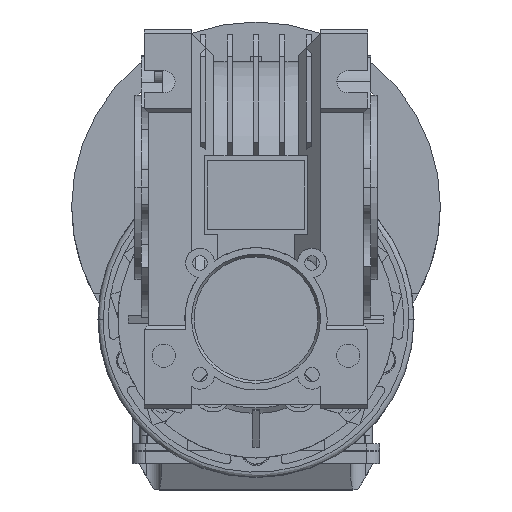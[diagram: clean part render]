
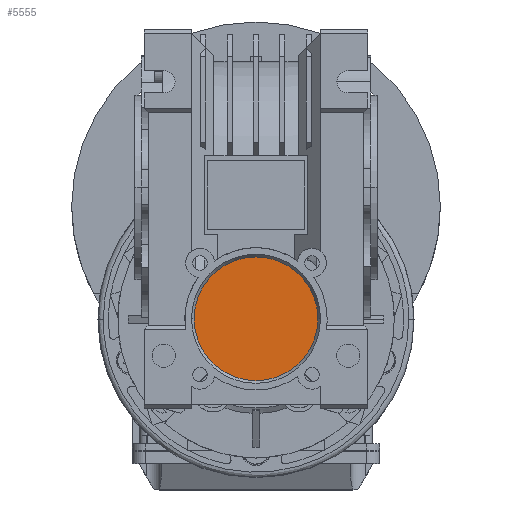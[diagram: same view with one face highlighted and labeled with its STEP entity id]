
A CAD part, top view. The second image highlights one B-rep face of the part: STEP entity #5555.
In plain terms, the highlighted planar face has unit normal (0, 0, 1) as drawn and (-1, 0, 0) by its records, which use the part's own axes.
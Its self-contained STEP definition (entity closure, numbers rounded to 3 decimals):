
#1293 = FACE_OUTER_BOUND ( 'NONE', #101837, .T. ) ;
#5555 = ADVANCED_FACE ( 'NONE', ( #1293 ), #31575, .F. ) ;
#14258 = ORIENTED_EDGE ( 'NONE', *, *, #35243, .T. ) ;
#14259 = ORIENTED_EDGE ( 'NONE', *, *, #35377, .T. ) ;
#31575 = PLANE ( 'NONE',  #59192 ) ;
#31581 = CARTESIAN_POINT ( 'NONE',  ( -58.5, 38.25, 0. ) ) ;
#31582 = DIRECTION ( 'NONE',  ( 1., 0., 0. ) ) ;
#31583 = DIRECTION ( 'NONE',  ( 0., 0., -1. ) ) ;
#35243 = EDGE_CURVE ( 'NONE', #97478, #97481, #90248, .T. ) ;
#35377 = EDGE_CURVE ( 'NONE', #97481, #97478, #90579, .T. ) ;
#51590 = CARTESIAN_POINT ( 'NONE',  ( -58.5, 50., -23.5 ) ) ;
#51595 = CARTESIAN_POINT ( 'NONE',  ( -58.5, 50., 23.5 ) ) ;
#53989 = AXIS2_PLACEMENT_3D ( 'NONE', #93903, #93905, #93907 ) ;
#54047 = AXIS2_PLACEMENT_3D ( 'NONE', #94700, #94702, #94704 ) ;
#59192 = AXIS2_PLACEMENT_3D ( 'NONE', #31581, #31582, #31583 ) ;
#90248 = CIRCLE ( 'NONE', #53989, 23.5 ) ;
#90579 = CIRCLE ( 'NONE', #54047, 23.5 ) ;
#93903 = CARTESIAN_POINT ( 'NONE',  ( -58.5, 50., 0. ) ) ;
#93905 = DIRECTION ( 'NONE',  ( -1., 0., 0. ) ) ;
#93907 = DIRECTION ( 'NONE',  ( 0., 0., 1. ) ) ;
#94700 = CARTESIAN_POINT ( 'NONE',  ( -58.5, 50., 0. ) ) ;
#94702 = DIRECTION ( 'NONE',  ( -1., 0., 0. ) ) ;
#94704 = DIRECTION ( 'NONE',  ( 0., 0., 1. ) ) ;
#97478 = VERTEX_POINT ( 'NONE', #51590 ) ;
#97481 = VERTEX_POINT ( 'NONE', #51595 ) ;
#101837 = EDGE_LOOP ( 'NONE', ( #14259, #14258 ) ) ;
